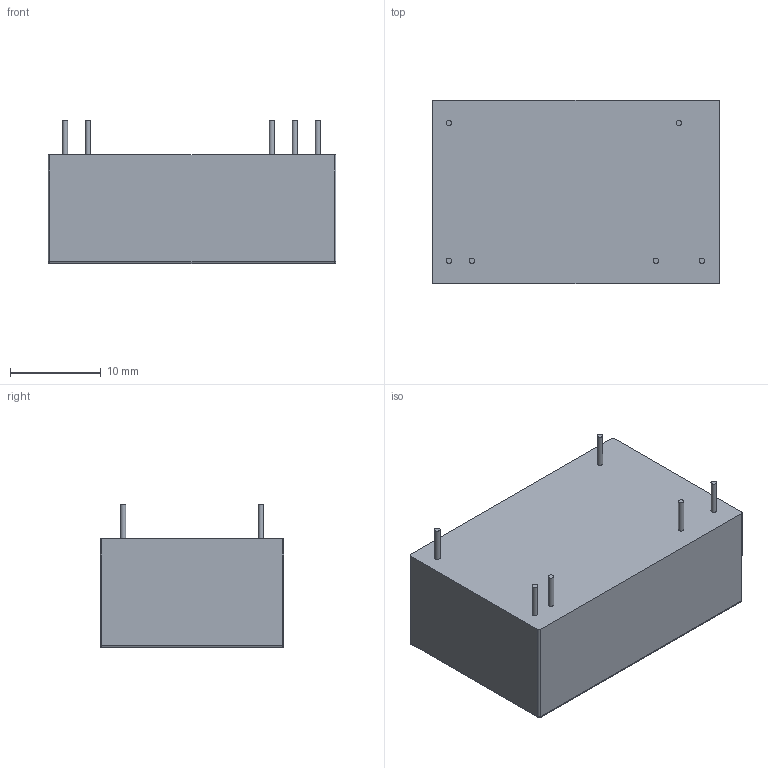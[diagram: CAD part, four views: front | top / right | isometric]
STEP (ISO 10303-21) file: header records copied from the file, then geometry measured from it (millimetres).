
FILE_DESCRIPTION(/* description */ (''),/* implementation_level */ '2;1');
FILE_NAME(/* name */ 'C:\Users\Calliope\Desktop\THR 3WI- for dual output models.stp',/* time_stamp */ '2021-11-22T16:53:35+08:00',/* author */ ('Calliope'),/* organization */ (''),/* preprocessor_version */ 'ST-DEVELOPER v16.1',/* originating_system */ 'Autodesk Inventor 2016',/* authorisation */ '');
FILE_SCHEMA (('AUTOMOTIVE_DESIGN { 1 0 10303 214 3 1 1 }'));
Length unit declared in the file: millimetre
Products named in the file (1): THR 3WI- for dual output models
Bounding box: 31.8 x 20.3 x 15.8 mm (x, y, z)
Volume: 7751.6 mm3; surface area: 2571.3 mm2
Topology: 1 solids, 1 shells, 30 faces, 54 edges, 32 vertices
Faces by surface type: cylinder 14, plane 12, sphere 4
Full cylindrical faces by diameter (mm): 0.6 x6
Entity records: 724 total; most frequent: DIRECTION 138, CARTESIAN_POINT 111, ORIENTED_EDGE 96, AXIS2_PLACEMENT_3D 59, EDGE_CURVE 48, EDGE_LOOP 42, VERTEX_POINT 32, FACE_OUTER_BOUND 30
